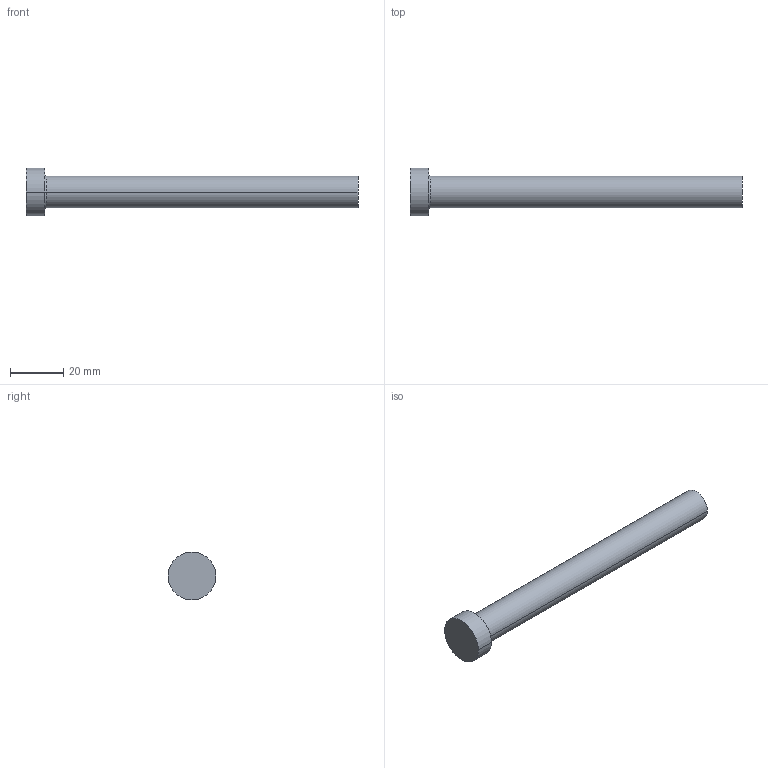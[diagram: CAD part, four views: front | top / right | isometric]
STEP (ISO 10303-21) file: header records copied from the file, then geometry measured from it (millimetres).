
FILE_DESCRIPTION (( 'STEP AP214' ), '1' );
FILE_NAME ('A-12x125.STEP', '2020-05-29T16:12:38', ( 'August' ), ( '' ), 'SwSTEP 2.0', 'SolidWorks 2018', '' );
FILE_SCHEMA (( 'AUTOMOTIVE_DESIGN' ));
Length unit declared in the file: millimetre
Products named in the file (1): A-12x125
Bounding box: 125 x 18 x 18 mm (x, y, z)
Volume: 15132.1 mm3; surface area: 5340.6 mm2
Topology: 1 solids, 1 shells, 9 faces, 16 edges, 10 vertices
Faces by surface type: cylinder 4, plane 3, torus 2
Entity records: 260 total; most frequent: DIRECTION 48, CARTESIAN_POINT 36, ORIENTED_EDGE 32, AXIS2_PLACEMENT_3D 22, EDGE_CURVE 16, CIRCLE 12, VERTEX_POINT 10, EDGE_LOOP 10
